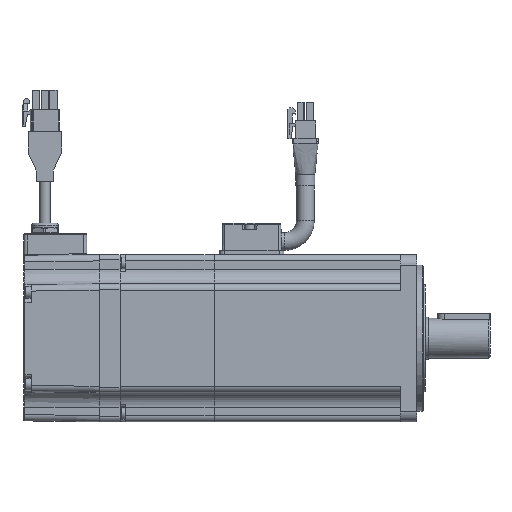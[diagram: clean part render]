
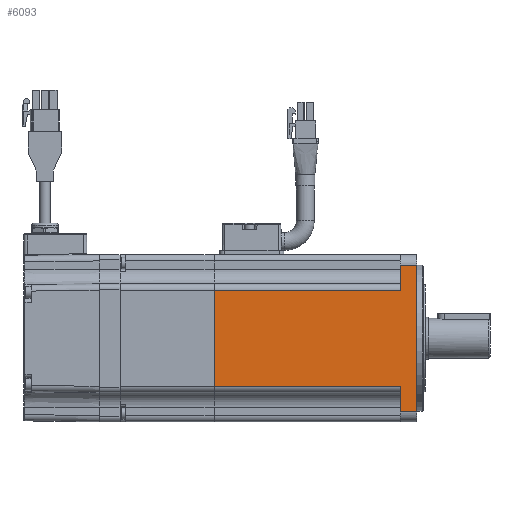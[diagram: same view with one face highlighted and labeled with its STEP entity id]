
A CAD part, left-side view. The second image highlights one B-rep face of the part: STEP entity #6093.
In plain terms, the highlighted planar face has unit normal (-1, 0, 0).
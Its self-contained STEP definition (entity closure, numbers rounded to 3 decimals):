
#6093 = ADVANCED_FACE( '', ( #12380 ), #12381, .T. );
#12380 = FACE_OUTER_BOUND( '', #23828, .T. );
#12381 = PLANE( '', #23829 );
#23828 = EDGE_LOOP( '', ( #39735, #39736, #39737, #39738, #39739, #39740, #39741, #39742 ) );
#23829 = AXIS2_PLACEMENT_3D( '', #39743, #39744, #39745 );
#39735 = ORIENTED_EDGE( '', *, *, #51366, .F. );
#39736 = ORIENTED_EDGE( '', *, *, #50713, .T. );
#39737 = ORIENTED_EDGE( '', *, *, #51074, .F. );
#39738 = ORIENTED_EDGE( '', *, *, #51367, .T. );
#39739 = ORIENTED_EDGE( '', *, *, #51368, .F. );
#39740 = ORIENTED_EDGE( '', *, *, #49005, .T. );
#39741 = ORIENTED_EDGE( '', *, *, #48953, .F. );
#39742 = ORIENTED_EDGE( '', *, *, #47506, .T. );
#39743 = CARTESIAN_POINT( '', ( -40., 197.846, 40. ) );
#39744 = DIRECTION( '', ( -1., 0., 0. ) );
#39745 = DIRECTION( '', ( 0., 0., 1. ) );
#47506 = EDGE_CURVE( '', #56249, #56246, #56250, .T. );
#48953 = EDGE_CURVE( '', #56249, #58536, #58537, .T. );
#49005 = EDGE_CURVE( '', #58607, #58536, #58610, .F. );
#50713 = EDGE_CURVE( '', #60995, #60997, #60999, .F. );
#51074 = EDGE_CURVE( '', #61466, #60997, #61468, .T. );
#51366 = EDGE_CURVE( '', #60995, #56246, #61838, .T. );
#51367 = EDGE_CURVE( '', #61466, #61839, #61840, .T. );
#51368 = EDGE_CURVE( '', #58607, #61839, #61841, .T. );
#56246 = VERTEX_POINT( '', #68950 );
#56249 = VERTEX_POINT( '', #68953 );
#56250 = LINE( '', #68954, #68955 );
#58536 = VERTEX_POINT( '', #73080 );
#58537 = LINE( '', #73081, #73082 );
#58607 = VERTEX_POINT( '', #73180 );
#58610 = LINE( '', #73184, #73185 );
#60995 = VERTEX_POINT( '', #77452 );
#60997 = VERTEX_POINT( '', #77454 );
#60999 = LINE( '', #77456, #77457 );
#61466 = VERTEX_POINT( '', #78428 );
#61468 = LINE( '', #78430, #78431 );
#61838 = LINE( '', #79090, #79091 );
#61839 = VERTEX_POINT( '', #79092 );
#61840 = LINE( '', #79093, #79094 );
#61841 = LINE( '', #79095, #79096 );
#68950 = CARTESIAN_POINT( '', ( -40., 97.81, 23. ) );
#68953 = CARTESIAN_POINT( '', ( -40., 8.81, 23. ) );
#68954 = CARTESIAN_POINT( '', ( -40., 197.846, 23. ) );
#68955 = VECTOR( '', #83961, 1000. );
#73080 = CARTESIAN_POINT( '', ( -40., 8.81, 35. ) );
#73081 = CARTESIAN_POINT( '', ( -40., 8.81, 40. ) );
#73082 = VECTOR( '', #85626, 1000. );
#73180 = CARTESIAN_POINT( '', ( -40., 0.81, 35. ) );
#73184 = CARTESIAN_POINT( '', ( -40., 197.846, 35. ) );
#73185 = VECTOR( '', #85680, 1000. );
#77452 = CARTESIAN_POINT( '', ( -40., 97.81, -23. ) );
#77454 = CARTESIAN_POINT( '', ( -40., 8.81, -23. ) );
#77456 = CARTESIAN_POINT( '', ( -40., 197.846, -23. ) );
#77457 = VECTOR( '', #87438, 1000. );
#78428 = CARTESIAN_POINT( '', ( -40., 8.81, -35. ) );
#78430 = CARTESIAN_POINT( '', ( -40., 8.81, 40. ) );
#78431 = VECTOR( '', #87815, 1000. );
#79090 = CARTESIAN_POINT( '', ( -40., 97.81, 40. ) );
#79091 = VECTOR( '', #88061, 1000. );
#79092 = CARTESIAN_POINT( '', ( -40., 0.81, -35. ) );
#79093 = CARTESIAN_POINT( '', ( -40., 197.846, -35. ) );
#79094 = VECTOR( '', #88062, 1000. );
#79095 = CARTESIAN_POINT( '', ( -40., 0.81, 40. ) );
#79096 = VECTOR( '', #88063, 1000. );
#83961 = DIRECTION( '', ( 0., 1., 0. ) );
#85626 = DIRECTION( '', ( 0., 0., 1. ) );
#85680 = DIRECTION( '', ( 0., -1., 0. ) );
#87438 = DIRECTION( '', ( 0., 1., 0. ) );
#87815 = DIRECTION( '', ( 0., 0., 1. ) );
#88061 = DIRECTION( '', ( 0., 0., 1. ) );
#88062 = DIRECTION( '', ( 0., -1., 0. ) );
#88063 = DIRECTION( '', ( 0., 0., -1. ) );
